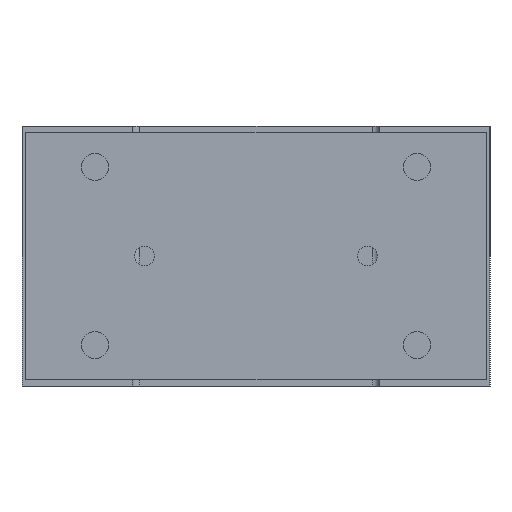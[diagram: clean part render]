
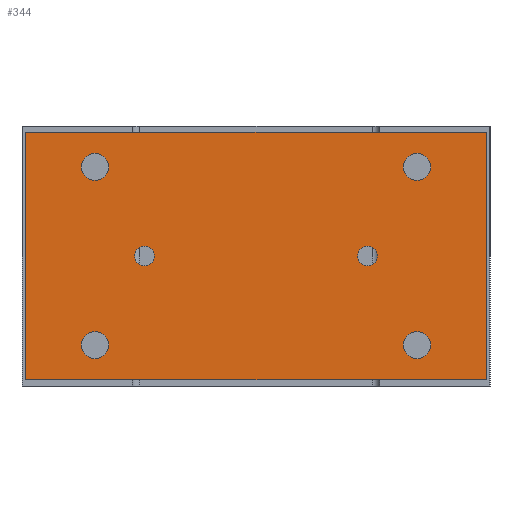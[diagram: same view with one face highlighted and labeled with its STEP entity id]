
A CAD part, left-side view. The second image highlights one B-rep face of the part: STEP entity #344.
In plain terms, the highlighted planar face has unit normal (-1, 0, 0).
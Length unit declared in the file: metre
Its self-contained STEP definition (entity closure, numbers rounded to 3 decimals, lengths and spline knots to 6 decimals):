
#344 = ADVANCED_FACE( '', ( #868, #869, #870, #871, #872, #873, #874 ), #875, .T. );
#868 = FACE_BOUND( '', #1672, .T. );
#869 = FACE_BOUND( '', #1673, .T. );
#870 = FACE_BOUND( '', #1674, .T. );
#871 = FACE_BOUND( '', #1675, .T. );
#872 = FACE_BOUND( '', #1676, .T. );
#873 = FACE_BOUND( '', #1677, .T. );
#874 = FACE_OUTER_BOUND( '', #1678, .T. );
#875 = PLANE( '', #1679 );
#1672 = EDGE_LOOP( '', ( #2675 ) );
#1673 = EDGE_LOOP( '', ( #2676 ) );
#1674 = EDGE_LOOP( '', ( #2677 ) );
#1675 = EDGE_LOOP( '', ( #2678 ) );
#1676 = EDGE_LOOP( '', ( #2679 ) );
#1677 = EDGE_LOOP( '', ( #2680 ) );
#1678 = EDGE_LOOP( '', ( #2681, #2682, #2683, #2684 ) );
#1679 = AXIS2_PLACEMENT_3D( '', #2685, #2686, #2687 );
#2675 = ORIENTED_EDGE( '', *, *, #4025, .F. );
#2676 = ORIENTED_EDGE( '', *, *, #4026, .F. );
#2677 = ORIENTED_EDGE( '', *, *, #4027, .F. );
#2678 = ORIENTED_EDGE( '', *, *, #3873, .F. );
#2679 = ORIENTED_EDGE( '', *, *, #4028, .F. );
#2680 = ORIENTED_EDGE( '', *, *, #4029, .T. );
#2681 = ORIENTED_EDGE( '', *, *, #3983, .T. );
#2682 = ORIENTED_EDGE( '', *, *, #4030, .T. );
#2683 = ORIENTED_EDGE( '', *, *, #3835, .T. );
#2684 = ORIENTED_EDGE( '', *, *, #4031, .T. );
#2685 = CARTESIAN_POINT( '', ( -0.135, 0.093, -0.1025 ) );
#2686 = DIRECTION( '', ( -1., 0., 0. ) );
#2687 = DIRECTION( '', ( 0., 0., -1. ) );
#3835 = EDGE_CURVE( '', #4417, #4415, #4418, .T. );
#3873 = EDGE_CURVE( '', #4482, #4482, #4483, .T. );
#3983 = EDGE_CURVE( '', #4668, #4666, #4669, .T. );
#4025 = EDGE_CURVE( '', #4732, #4732, #4733, .T. );
#4026 = EDGE_CURVE( '', #4734, #4734, #4735, .T. );
#4027 = EDGE_CURVE( '', #4736, #4736, #4737, .T. );
#4028 = EDGE_CURVE( '', #4738, #4738, #4739, .T. );
#4029 = EDGE_CURVE( '', #4740, #4740, #4741, .T. );
#4030 = EDGE_CURVE( '', #4666, #4417, #4742, .T. );
#4031 = EDGE_CURVE( '', #4415, #4668, #4743, .T. );
#4415 = VERTEX_POINT( '', #5259 );
#4417 = VERTEX_POINT( '', #5262 );
#4418 = LINE( '', #5263, #5264 );
#4482 = VERTEX_POINT( '', #5349 );
#4483 = CIRCLE( '', #5350, 0.0055 );
#4666 = VERTEX_POINT( '', #5656 );
#4668 = VERTEX_POINT( '', #5659 );
#4669 = LINE( '', #5660, #5661 );
#4732 = VERTEX_POINT( '', #5737 );
#4733 = CIRCLE( '', #5738, 0.0055 );
#4734 = VERTEX_POINT( '', #5739 );
#4735 = CIRCLE( '', #5740, 0.0055 );
#4736 = VERTEX_POINT( '', #5741 );
#4737 = CIRCLE( '', #5742, 0.0055 );
#4738 = VERTEX_POINT( '', #5743 );
#4739 = CIRCLE( '', #5744, 0.004 );
#4740 = VERTEX_POINT( '', #5745 );
#4741 = CIRCLE( '', #5746, 0.004 );
#4742 = LINE( '', #5747, #5748 );
#4743 = LINE( '', #5749, #5750 );
#5259 = CARTESIAN_POINT( '', ( -0.135, -0.093, -0.0025 ) );
#5262 = CARTESIAN_POINT( '', ( -0.135, -0.093, -0.1025 ) );
#5263 = CARTESIAN_POINT( '', ( -0.135, -0.093, -0.1025 ) );
#5264 = VECTOR( '', #6523, 1. );
#5349 = CARTESIAN_POINT( '', ( -0.135, -0.0705, -0.0885 ) );
#5350 = AXIS2_PLACEMENT_3D( '', #6569, #6570, #6571 );
#5656 = CARTESIAN_POINT( '', ( -0.135, 0.093, -0.1025 ) );
#5659 = CARTESIAN_POINT( '', ( -0.135, 0.093, -0.0025 ) );
#5660 = CARTESIAN_POINT( '', ( -0.135, 0.093, -0.0025 ) );
#5661 = VECTOR( '', #6699, 1. );
#5737 = CARTESIAN_POINT( '', ( -0.135, 0.0595, -0.0165 ) );
#5738 = AXIS2_PLACEMENT_3D( '', #6758, #6759, #6760 );
#5739 = CARTESIAN_POINT( '', ( -0.135, -0.0705, -0.0165 ) );
#5740 = AXIS2_PLACEMENT_3D( '', #6761, #6762, #6763 );
#5741 = CARTESIAN_POINT( '', ( -0.135, 0.0595, -0.0885 ) );
#5742 = AXIS2_PLACEMENT_3D( '', #6764, #6765, #6766 );
#5743 = CARTESIAN_POINT( '', ( -0.135, 0.041, -0.0525 ) );
#5744 = AXIS2_PLACEMENT_3D( '', #6767, #6768, #6769 );
#5745 = CARTESIAN_POINT( '', ( -0.135, -0.041, -0.0525 ) );
#5746 = AXIS2_PLACEMENT_3D( '', #6770, #6771, #6772 );
#5747 = CARTESIAN_POINT( '', ( -0.135, 0.093, -0.1025 ) );
#5748 = VECTOR( '', #6773, 1. );
#5749 = CARTESIAN_POINT( '', ( -0.135, -0.093, -0.0025 ) );
#5750 = VECTOR( '', #6774, 1. );
#6523 = DIRECTION( '', ( 0., 0., 1. ) );
#6569 = CARTESIAN_POINT( '', ( -0.135, -0.065, -0.0885 ) );
#6570 = DIRECTION( '', ( -1., 0., 0. ) );
#6571 = DIRECTION( '', ( 0., -1., 0. ) );
#6699 = DIRECTION( '', ( 0., 0., -1. ) );
#6758 = CARTESIAN_POINT( '', ( -0.135, 0.065, -0.0165 ) );
#6759 = DIRECTION( '', ( -1., 0., 0. ) );
#6760 = DIRECTION( '', ( 0., -1., 0. ) );
#6761 = CARTESIAN_POINT( '', ( -0.135, -0.065, -0.0165 ) );
#6762 = DIRECTION( '', ( -1., 0., 0. ) );
#6763 = DIRECTION( '', ( 0., -1., 0. ) );
#6764 = CARTESIAN_POINT( '', ( -0.135, 0.065, -0.0885 ) );
#6765 = DIRECTION( '', ( -1., 0., 0. ) );
#6766 = DIRECTION( '', ( 0., -1., 0. ) );
#6767 = CARTESIAN_POINT( '', ( -0.135, 0.045, -0.0525 ) );
#6768 = DIRECTION( '', ( -1., 0., 0. ) );
#6769 = DIRECTION( '', ( 0., -1., 0. ) );
#6770 = CARTESIAN_POINT( '', ( -0.135, -0.045, -0.0525 ) );
#6771 = DIRECTION( '', ( 1., 0., 0. ) );
#6772 = DIRECTION( '', ( 0., 1., 0. ) );
#6773 = DIRECTION( '', ( 0., -1., 0. ) );
#6774 = DIRECTION( '', ( 0., 1., 0. ) );
